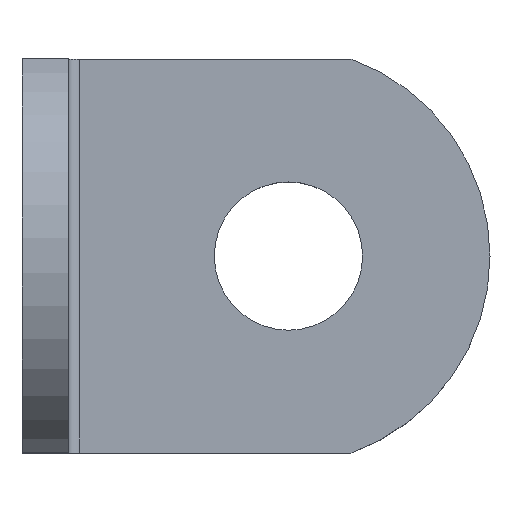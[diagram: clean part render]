
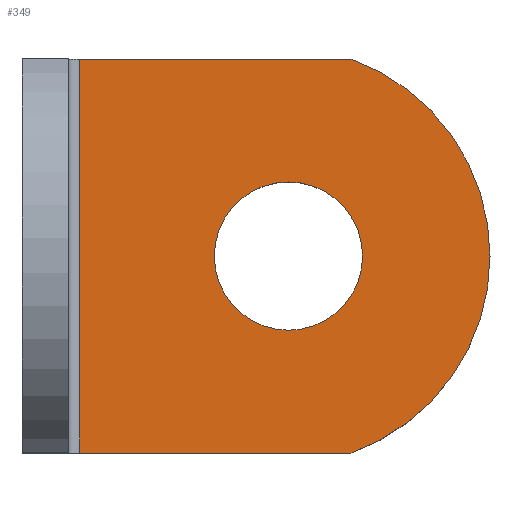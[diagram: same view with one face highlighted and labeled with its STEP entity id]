
A CAD part, top view. The second image highlights one B-rep face of the part: STEP entity #349.
In plain terms, the highlighted planar face has unit normal (0, 0, 1).
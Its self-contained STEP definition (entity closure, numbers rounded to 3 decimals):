
#5 = CIRCLE ( 'NONE', #17, 3.2 ) ;
#17 = AXIS2_PLACEMENT_3D ( 'NONE', #64, #407, #392 ) ;
#20 = DIRECTION ( 'NONE',  ( 0., 0., 1. ) ) ;
#24 = CARTESIAN_POINT ( 'NONE',  ( 1.4, 0., 0. ) ) ;
#28 = DIRECTION ( 'NONE',  ( -1., 0., 0. ) ) ;
#31 = VERTEX_POINT ( 'NONE', #423 ) ;
#36 = DIRECTION ( 'NONE',  ( 0., 0., 1. ) ) ;
#37 = EDGE_CURVE ( 'NONE', #162, #117, #306, .T. ) ;
#64 = CARTESIAN_POINT ( 'NONE',  ( 1.4, 0., 0. ) ) ;
#68 = ORIENTED_EDGE ( 'NONE', *, *, #486, .F. ) ;
#69 = EDGE_LOOP ( 'NONE', ( #372, #180 ) ) ;
#74 = ORIENTED_EDGE ( 'NONE', *, *, #37, .T. ) ;
#76 = CARTESIAN_POINT ( 'NONE',  ( -7.6, 8.5, 0. ) ) ;
#78 = DIRECTION ( 'NONE',  ( 1., 0., 0. ) ) ;
#84 = DIRECTION ( 'NONE',  ( -1., 0., 0. ) ) ;
#91 = LINE ( 'NONE', #362, #536 ) ;
#94 = CARTESIAN_POINT ( 'NONE',  ( 1.079, 0., 0. ) ) ;
#110 = CARTESIAN_POINT ( 'NONE',  ( -7.6, -8.5, 0. ) ) ;
#117 = VERTEX_POINT ( 'NONE', #76 ) ;
#134 = VERTEX_POINT ( 'NONE', #531 ) ;
#162 = VERTEX_POINT ( 'NONE', #499 ) ;
#166 = DIRECTION ( 'NONE',  ( 0., 0., -1. ) ) ;
#167 = DIRECTION ( 'NONE',  ( 1., 0., 0. ) ) ;
#173 = AXIS2_PLACEMENT_3D ( 'NONE', #24, #36, #78 ) ;
#174 = DIRECTION ( 'NONE',  ( 0., 1., 0. ) ) ;
#175 = PLANE ( 'NONE',  #410 ) ;
#177 = VERTEX_POINT ( 'NONE', #566 ) ;
#180 = ORIENTED_EDGE ( 'NONE', *, *, #271, .F. ) ;
#188 = CARTESIAN_POINT ( 'NONE',  ( 1.079, 0., 0. ) ) ;
#195 = DIRECTION ( 'NONE',  ( 0., 0., 1. ) ) ;
#206 = VERTEX_POINT ( 'NONE', #583 ) ;
#215 = ORIENTED_EDGE ( 'NONE', *, *, #579, .T. ) ;
#220 = CARTESIAN_POINT ( 'NONE',  ( 0., 0., 0. ) ) ;
#225 = VECTOR ( 'NONE', #84, 1000. ) ;
#231 = ORIENTED_EDGE ( 'NONE', *, *, #265, .T. ) ;
#235 = CIRCLE ( 'NONE', #478, 9.021 ) ;
#265 = EDGE_CURVE ( 'NONE', #206, #162, #235, .T. ) ;
#271 = EDGE_CURVE ( 'NONE', #177, #581, #355, .T. ) ;
#276 = EDGE_LOOP ( 'NONE', ( #215, #231, #74, #68, #378 ) ) ;
#306 = LINE ( 'NONE', #514, #225 ) ;
#314 = FACE_OUTER_BOUND ( 'NONE', #276, .T. ) ;
#331 = LINE ( 'NONE', #110, #409 ) ;
#349 = ADVANCED_FACE ( 'NONE', ( #569, #314 ), #175, .F. ) ;
#355 = CIRCLE ( 'NONE', #173, 3.2 ) ;
#362 = CARTESIAN_POINT ( 'NONE',  ( -10.1, -8.5, 0. ) ) ;
#366 = DIRECTION ( 'NONE',  ( 1., 0., 0. ) ) ;
#372 = ORIENTED_EDGE ( 'NONE', *, *, #559, .F. ) ;
#378 = ORIENTED_EDGE ( 'NONE', *, *, #382, .T. ) ;
#382 = EDGE_CURVE ( 'NONE', #134, #31, #91, .T. ) ;
#392 = DIRECTION ( 'NONE',  ( 1., 0., 0. ) ) ;
#398 = DIRECTION ( 'NONE',  ( 1., 0., 0. ) ) ;
#407 = DIRECTION ( 'NONE',  ( 0., 0., 1. ) ) ;
#409 = VECTOR ( 'NONE', #174, 1000. ) ;
#410 = AXIS2_PLACEMENT_3D ( 'NONE', #220, #166, #28 ) ;
#419 = AXIS2_PLACEMENT_3D ( 'NONE', #94, #195, #398 ) ;
#423 = CARTESIAN_POINT ( 'NONE',  ( 4.1, -8.5, 0. ) ) ;
#443 = CARTESIAN_POINT ( 'NONE',  ( 4.6, 0., 0. ) ) ;
#478 = AXIS2_PLACEMENT_3D ( 'NONE', #188, #20, #366 ) ;
#486 = EDGE_CURVE ( 'NONE', #134, #117, #331, .T. ) ;
#499 = CARTESIAN_POINT ( 'NONE',  ( 4.1, 8.5, 0. ) ) ;
#514 = CARTESIAN_POINT ( 'NONE',  ( -10.1, 8.5, 0. ) ) ;
#531 = CARTESIAN_POINT ( 'NONE',  ( -7.6, -8.5, 0. ) ) ;
#536 = VECTOR ( 'NONE', #167, 1000. ) ;
#557 = CIRCLE ( 'NONE', #419, 9.021 ) ;
#559 = EDGE_CURVE ( 'NONE', #581, #177, #5, .T. ) ;
#566 = CARTESIAN_POINT ( 'NONE',  ( -1.8, 0., 0. ) ) ;
#569 = FACE_BOUND ( 'NONE', #69, .T. ) ;
#579 = EDGE_CURVE ( 'NONE', #31, #206, #557, .T. ) ;
#581 = VERTEX_POINT ( 'NONE', #443 ) ;
#583 = CARTESIAN_POINT ( 'NONE',  ( 10.1, 0., 0. ) ) ;
